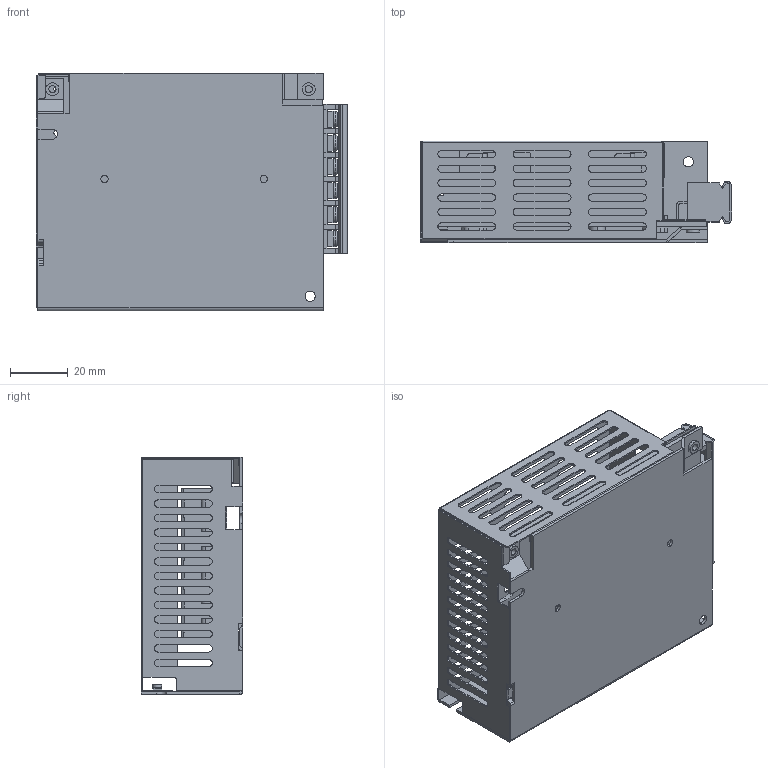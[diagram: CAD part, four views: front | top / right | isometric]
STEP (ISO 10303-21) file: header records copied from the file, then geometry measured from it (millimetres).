
FILE_DESCRIPTION (( 'STEP AP214' ), '1' );
FILE_NAME ('TXL-035-D.STEP', '2019-07-09T09:03:37', ( 'users' ), ( '' ), 'SwSTEP 2.0', 'SolidWorks 2012', '' );
FILE_SCHEMA (( 'AUTOMOTIVE_DESIGN' ));
Length unit declared in the file: millimetre
Products named in the file (6): LABEL; TML; PCB; COVER; CASE; TXL-035-D
Assembly tree (5 placements, depth 2):
  TXL-035-D
    CASE
    COVER
    PCB
    TML
    LABEL
Bounding box: 107.42 x 35 x 82 mm (x, y, z)
Volume: 36654.9 mm3; surface area: 70409.5 mm2
Topology: 6 solids, 6 shells, 1437 faces, 3925 edges, 2559 vertices
Faces by surface type: plane 952, cylinder 404, bspline 69, torus 12
Entity records: 52448 total; most frequent: CARTESIAN_POINT 12457, ORIENTED_EDGE 7850, DIRECTION 7395, EDGE_CURVE 3925, VECTOR 2933, LINE 2933, VERTEX_POINT 2559, AXIS2_PLACEMENT_3D 2231
